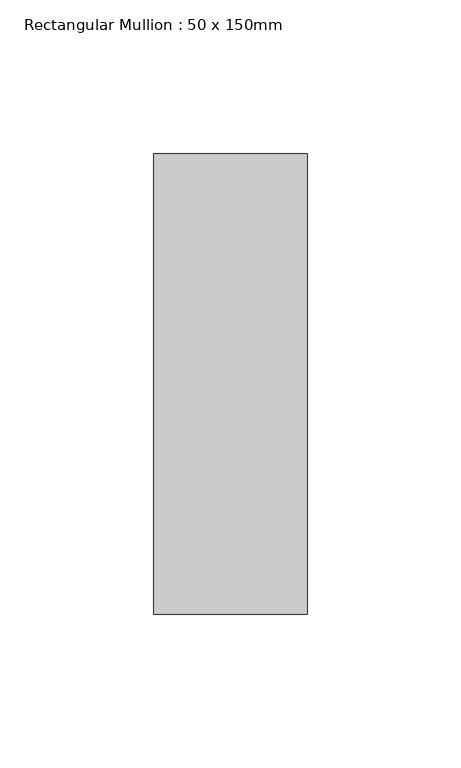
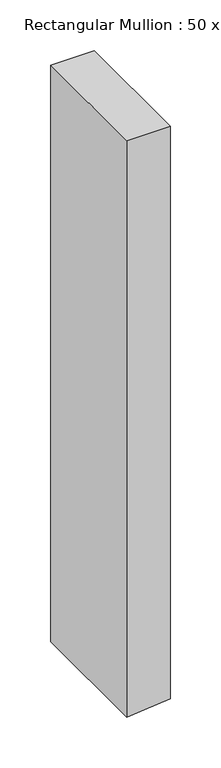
"""IFC4 building model written with IfcOpenShell, lengths in millimetres: member geometry, Rectangular Mullion : 50 x 150mm."""

import ifcopenshell
import ifcopenshell.guid

model = None  # the IFC model being written
_history = None  # IfcOwnerHistory: only IFC2X3 demands one
_inside = {}  # id of a spatial element -> (the spatial element, [elements in it])
_under = {}  # id of a project, library or spatial element -> (it, [spatial elements below it])
_declared = {}  # id of a project -> (the project, [libraries it declares])
_typed = {}  # id of a type object -> (the type object, [elements of that type])
_made_of = {}  # id of a material, layer set ... -> (it, [elements and type objects made of it])


def new_model(schema):
    """Start an empty IFC model of exactly this schema.

    Asked for "IFC4X3", IfcOpenShell would pick the latest addendum, in which some entities
    have other attributes; the version numbers below select the first issue.
    IFC2X3 requires an IfcOwnerHistory on every rooted entity: one is made here for all.
    """
    global model, _history
    if schema == "IFC4X3":
        model = ifcopenshell.file(schema_version=(4, 3, 0, 0))
    else:
        model = ifcopenshell.file(schema=schema)
    _inside.clear()
    _under.clear()
    _declared.clear()
    _typed.clear()
    _made_of.clear()
    _history = None
    if model.schema == "IFC2X3":
        org = make("IfcOrganization", Name="unknown")
        user = make(
            "IfcPersonAndOrganization",
            ThePerson=make("IfcPerson", FamilyName="unknown"),
            TheOrganization=org,
        )
        app = make(
            "IfcApplication",
            ApplicationDeveloper=org,
            Version="unknown",
            ApplicationFullName="unknown",
            ApplicationIdentifier="unknown",
        )
        _history = make(
            "IfcOwnerHistory",
            OwningUser=user,
            OwningApplication=app,
            ChangeAction="ADDED",
            CreationDate=0,
        )
    return model


def make(cls, **values):
    """One entity of the class cls with the attributes given. An attribute that is None is left unset."""
    return model.create_entity(
        cls, **{name: value for name, value in values.items() if value is not None}
    )


def rooted(cls, **values):
    """An entity with a GlobalId (a new one), such as an element, a storey or a relation."""
    return make(cls, GlobalId=ifcopenshell.guid.new(), OwnerHistory=_history, **values)


def si_unit(unit_type, name, prefix=None):
    """IfcSIUnit, for example si_unit("LENGTHUNIT", "METRE", prefix="MILLI")."""
    return make("IfcSIUnit", UnitType=unit_type, Prefix=prefix, Name=name)


def assignment(units):
    """IfcUnitAssignment: the units of a project."""
    return None if units is None else make("IfcUnitAssignment", Units=units)


def point(xyz):
    """IfcCartesianPoint."""
    return None if xyz is None else make("IfcCartesianPoint", Coordinates=xyz)


def direction(xyz):
    """IfcDirection."""
    return None if xyz is None else make("IfcDirection", DirectionRatios=xyz)


def frame(location, z_axis=None, x_axis=None):
    """IfcAxis2Placement3D, a coordinate frame: its origin and axes. An axis left out is left unset."""
    return make(
        "IfcAxis2Placement3D",
        Location=point(location),
        Axis=direction(z_axis),
        RefDirection=direction(x_axis),
    )


def origin():
    """The frame at (0, 0, 0) with its axes left unset."""
    return frame((0.0, 0.0, 0.0))


def place(relative_to, where):
    """IfcLocalPlacement: puts the frame where relative to a parent placement (None: the world)."""
    return make(
        "IfcLocalPlacement", PlacementRelTo=relative_to, RelativePlacement=where
    )


def context(
    kind, dimensions, precision=None, world=None, true_north=None, identifier=None
):
    """IfcGeometricRepresentationContext, for example the 3D "Model" context."""
    return make(
        "IfcGeometricRepresentationContext",
        ContextIdentifier=identifier,
        ContextType=kind,
        CoordinateSpaceDimension=dimensions,
        Precision=precision,
        WorldCoordinateSystem=world,
        TrueNorth=true_north,
    )


def project(units=None, contexts=None):
    """IfcProject with its units and contexts."""
    return rooted(
        "IfcProject",
        Name="project",
        RepresentationContexts=contexts,
        UnitsInContext=assignment(units),
    )


def spatial(cls, under=None, at=None, **own):
    """A site, building, storey or space (cls), placed at a placement, below another one or the project."""
    s = rooted(cls, ObjectPlacement=at, **own)
    if under is not None:
        _under.setdefault(under.id(), (under, []))[1].append(s)
    return s


def polyline(points):
    """IfcPolyline through the points."""
    return make("IfcPolyline", Points=[point(p) for p in points])


def outline(outer, holes=None, kind="AREA"):
    """IfcArbitraryClosedProfileDef: a profile drawn as a closed curve; with holes, ...WithVoids."""
    if holes is None:
        return make("IfcArbitraryClosedProfileDef", ProfileType=kind, OuterCurve=outer)
    return make(
        "IfcArbitraryProfileDefWithVoids",
        ProfileType=kind,
        OuterCurve=outer,
        InnerCurves=holes,
    )


def extrude(swept, where, along, depth):
    """IfcExtrudedAreaSolid: the profile swept, set in the frame where, extruded along a direction by depth."""
    return make(
        "IfcExtrudedAreaSolid",
        SweptArea=swept,
        Position=where,
        ExtrudedDirection=direction(along),
        Depth=depth,
    )


def shape(context_of_items, identifier, shape_type, items):
    """IfcShapeRepresentation: the items that make up one representation, for example the "Body"."""
    return make(
        "IfcShapeRepresentation",
        ContextOfItems=context_of_items,
        RepresentationIdentifier=identifier,
        RepresentationType=shape_type,
        Items=items,
    )


def source(mapping_origin, context_of_items, identifier, shape_type, items):
    """IfcRepresentationMap: a shape defined once, which mapped items show again and again."""
    return make(
        "IfcRepresentationMap",
        MappingOrigin=mapping_origin,
        MappedRepresentation=shape(context_of_items, identifier, shape_type, items),
    )


def transform(
    local_origin,
    x_axis=None,
    y_axis=None,
    z_axis=None,
    scale=None,
    scale2=None,
    scale3=None,
    uniform=True,
):
    """IfcCartesianTransformationOperator3D, or its non-uniform kind. x_axis, y_axis, z_axis: its Axis1, 2, 3."""
    if uniform:
        return make(
            "IfcCartesianTransformationOperator3D",
            Axis1=direction(x_axis),
            Axis2=direction(y_axis),
            LocalOrigin=point(local_origin),
            Scale=scale,
            Axis3=direction(z_axis),
        )
    return make(
        "IfcCartesianTransformationOperator3DnonUniform",
        Axis1=direction(x_axis),
        Axis2=direction(y_axis),
        LocalOrigin=point(local_origin),
        Scale=scale,
        Axis3=direction(z_axis),
        Scale2=scale2,
        Scale3=scale3,
    )


def mapped(mapping_source, mapping_target):
    """IfcMappedItem: shows the shape of a source again, moved by a transform."""
    return make(
        "IfcMappedItem", MappingSource=mapping_source, MappingTarget=mapping_target
    )


def made_of(thing, what):
    """Note that an element or type object is made of a material, layer set ...; save() writes the relation."""
    if what is not None:
        _made_of.setdefault(what.id(), (what, []))[1].append(thing)
    return thing


def element(
    cls,
    number,
    at=None,
    inside=None,
    cuts=None,
    type_object=None,
    material=None,
    context=None,
    identifier="Body",
    shape_type=None,
    held_by="IfcProductDefinitionShape",
    body=None,
    shapes=None,
    **own,
):
    """One element of the class cls, such as IfcWall. Its Tag is "e" and its number.

    at: its placement. inside: the storey or other place that contains it. cuts: it is an
    opening in that element (IfcRelVoidsElement). A single representation is given by context,
    identifier, shape_type and body (its items); several are given by shapes. held_by: the class
    of the entity that holds the representations. save() writes the other relations.
    """
    e = rooted(cls, Tag="e%d" % number, ObjectPlacement=at, **own)
    if body is not None:
        shapes = [shape(context, identifier, shape_type, body)]
    if shapes is not None:
        e.Representation = make(held_by, Representations=shapes)
    if inside is not None:
        _inside.setdefault(inside.id(), (inside, []))[1].append(e)
    if cuts is not None:
        rooted(
            "IfcRelVoidsElement", RelatingBuildingElement=cuts, RelatedOpeningElement=e
        )
    if type_object is not None:
        _typed.setdefault(type_object.id(), (type_object, []))[1].append(e)
    return made_of(e, material)


def aggregate(whole, parts):
    """IfcRelAggregates: a whole, such as a stair, and the parts it consists of."""
    return rooted("IfcRelAggregates", RelatingObject=whole, RelatedObjects=parts)


def save(model, path):
    """Write the relations noted so far, then the file.

    IfcRelAggregates (storeys below a building ...), IfcRelContainedInSpatialStructure (elements
    in a storey), IfcRelDefinesByType, IfcRelAssociatesMaterial and IfcRelDeclares: one each for
    every whole, place, type object, material and project.
    """
    for whole, parts in _under.values():
        aggregate(whole, parts)
    for where, things in _inside.values():
        rooted(
            "IfcRelContainedInSpatialStructure",
            RelatedElements=things,
            RelatingStructure=where,
        )
    for kind, things in _typed.values():
        rooted("IfcRelDefinesByType", RelatedObjects=things, RelatingType=kind)
    for what, things in _made_of.values():
        rooted("IfcRelAssociatesMaterial", RelatedObjects=things, RelatingMaterial=what)
    for by, libraries in _declared.values():
        rooted("IfcRelDeclares", RelatingContext=by, RelatedDefinitions=libraries)
    model.write(path)


def rectangular_mullion_50_x_150mm_27947a28(model_context):
    return source(origin(), model_context, "Body", "SweptSolid", [
        extrude(outline(polyline([(0.0, 25.0), (0.0, -25.0), (-695.5860517, -25.0), (-693.5752846, -5.0022633), (-690.558565, 25.0), (0.0, 25.0)])), frame((0.0, -75.0, 0.0), z_axis=(0.0, 1.0, 0.0), x_axis=(0.0, 0.0, 1.0)), (0.0, 0.0, 1.0), 150.0),
    ])


if __name__ == "__main__":
    model = new_model("IFC4")
    model_context = context("Model", 3, world=origin())
    ifc_project = project(units=[si_unit("LENGTHUNIT", "METRE", prefix="MILLI")], contexts=[model_context])
    site = spatial("IfcSite", under=ifc_project)
    building = spatial("IfcBuilding", under=site)
    placement = place(None, origin())
    rectangular_mullion_50_x_150mm_shape = rectangular_mullion_50_x_150mm_27947a28(model_context)
    element("IfcMember", 1, ObjectType="Rectangular Mullion : 50 x 150mm", at=placement, inside=building, context=model_context, shape_type="MappedRepresentation", body=[
        mapped(rectangular_mullion_50_x_150mm_shape, transform((0.0, 0.0, 0.0), x_axis=(1.0, 0.0, 0.0), y_axis=(0.0, 1.0, 0.0), z_axis=(0.0, 0.0, 1.0))),
    ])
    save(model, "model.ifc")
